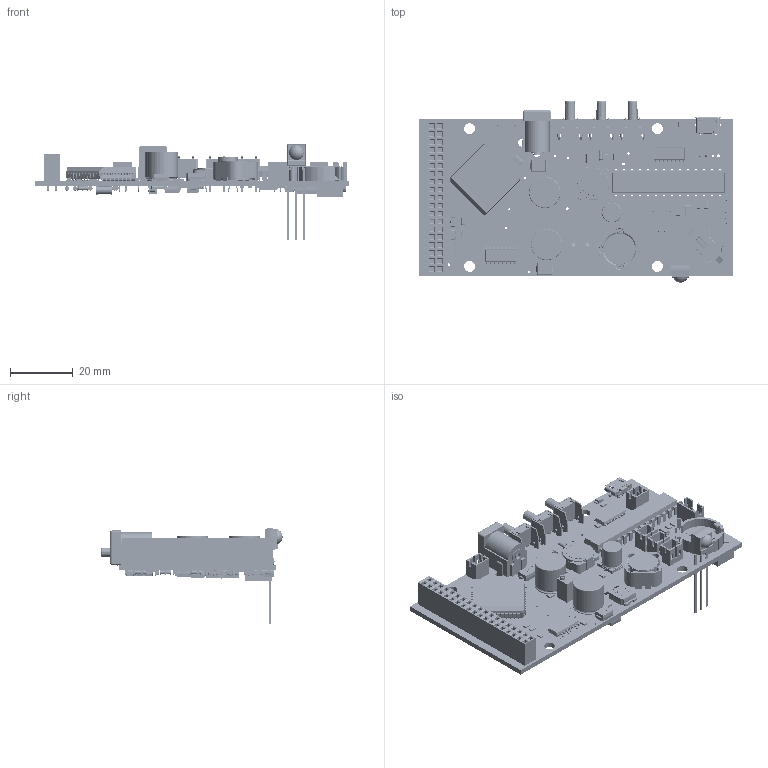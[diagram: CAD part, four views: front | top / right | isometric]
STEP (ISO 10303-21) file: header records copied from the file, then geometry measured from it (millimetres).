
FILE_DESCRIPTION(('Open CASCADE Model'),'2;1');
FILE_NAME('Open CASCADE Shape Model','2018-04-11T11:07:43',('Author'),( 'Open CASCADE'),'Open CASCADE STEP processor 6.8','Open CASCADE 6.8' ,'Unknown');
FILE_SCHEMA(('AUTOMOTIVE_DESIGN { 1 0 10303 214 1 1 1 1 }'));
Products named in the file (1): PCB
Bounding box: 100 x 57.9 x 30.5 mm (x, y, z)
Volume: 10596.4 mm3; surface area: 30369.6 mm2
Topology: 69 solids, 6066 shells, 10920 faces, 43308 edges, 37995 vertices
Faces by surface type: plane 6329, cylinder 2944, bspline 990, sphere 330, torus 288, cone 39
Full cylindrical faces by diameter (mm): 0.7 x3, 0.8 x8, 0.85 x2, 0.9 x87, 1.1 x9, 1.3 x8, 1.4 x1, 2.5 x3, 3.5 x4
Entity records: 546438 total; most frequent: CARTESIAN_POINT 153558, DIRECTION 67814, ORIENTED_EDGE 54975, EDGE_CURVE 42792, VERTEX_POINT 37995, LINE 29984, VECTOR 29984, AXIS2_PLACEMENT_3D 18915
